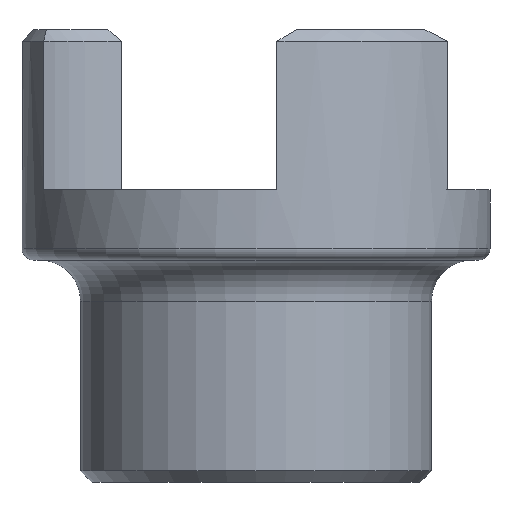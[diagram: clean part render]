
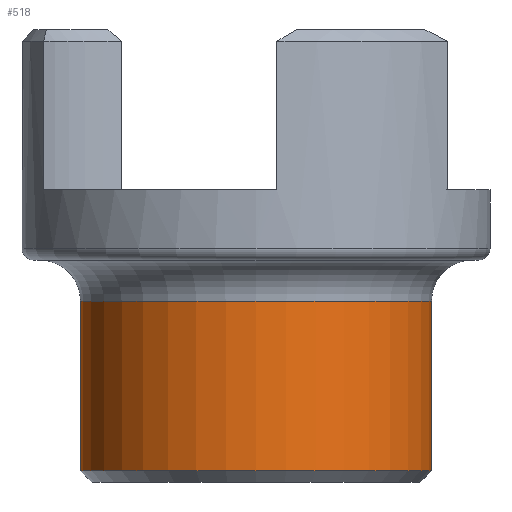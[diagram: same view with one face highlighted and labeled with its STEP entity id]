
A CAD part, left-side view. The second image highlights one B-rep face of the part: STEP entity #518.
In plain terms, the highlighted cylindrical face has radius 15 mm (diameter 30 mm), a full revolution.
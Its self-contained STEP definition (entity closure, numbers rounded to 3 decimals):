
#34=FACE_BOUND('',#151,.T.);
#69=CYLINDRICAL_SURFACE('',#604,15.);
#106=FACE_OUTER_BOUND('',#150,.T.);
#150=EDGE_LOOP('',(#466));
#151=EDGE_LOOP('',(#467));
#203=CIRCLE('',#588,15.);
#210=CIRCLE('',#603,15.);
#248=VERTEX_POINT('',#952);
#254=VERTEX_POINT('',#973);
#318=EDGE_CURVE('',#248,#248,#203,.T.);
#325=EDGE_CURVE('',#254,#254,#210,.T.);
#466=ORIENTED_EDGE('',*,*,#325,.T.);
#467=ORIENTED_EDGE('',*,*,#318,.F.);
#518=ADVANCED_FACE('',(#106,#34),#69,.T.);
#588=AXIS2_PLACEMENT_3D('',#953,#753,#754);
#603=AXIS2_PLACEMENT_3D('',#974,#783,#784);
#604=AXIS2_PLACEMENT_3D('',#975,#785,#786);
#753=DIRECTION('center_axis',(0.,0.,-1.));
#754=DIRECTION('ref_axis',(1.,0.,0.));
#783=DIRECTION('center_axis',(0.,0.,-1.));
#784=DIRECTION('ref_axis',(1.,0.,0.));
#785=DIRECTION('center_axis',(0.,0.,-1.));
#786=DIRECTION('ref_axis',(-1.,0.,0.));
#952=CARTESIAN_POINT('',(-43.641,0.,2.124));
#953=CARTESIAN_POINT('Origin',(-28.641,0.,2.124));
#973=CARTESIAN_POINT('',(-43.641,0.,16.624));
#974=CARTESIAN_POINT('Origin',(-28.641,0.,16.624));
#975=CARTESIAN_POINT('Origin',(-28.641,0.,9.374));
